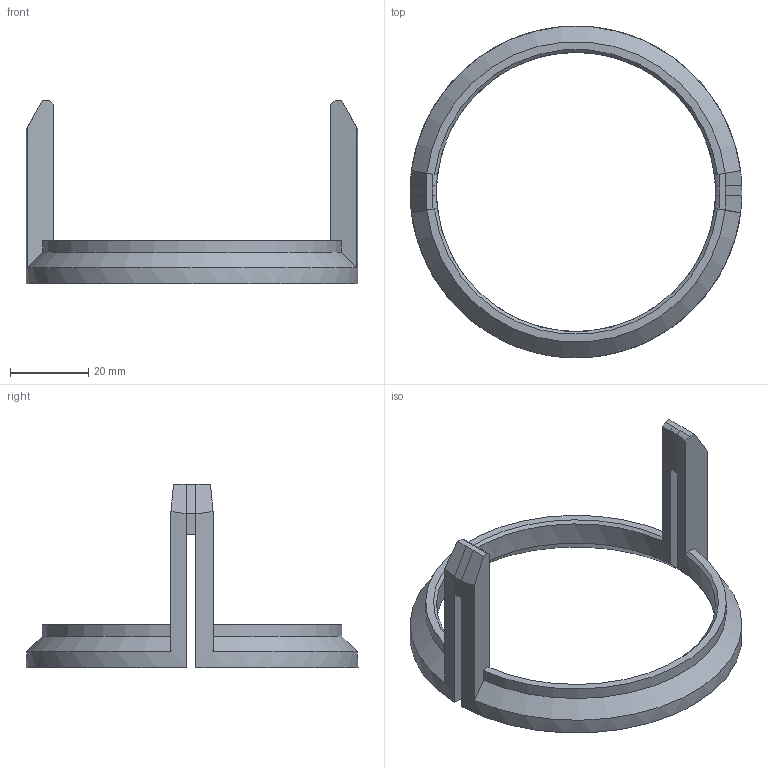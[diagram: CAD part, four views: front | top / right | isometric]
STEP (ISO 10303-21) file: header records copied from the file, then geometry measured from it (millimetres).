
FILE_DESCRIPTION(/* description */ (''),/* implementation_level */ '2;1');
FILE_NAME(/* name */ 'F:/F-Shared-Ryzen7 - PROD/F-OWL-PLANES/F-16 Falcon 64mm/STLs - REAL FOLDER/OWLplane OWL F-16 Falcon 64mm v1.2/OWL F-16 Falcon 64mm - SUPPORT ver 1.1/F-16 Falcon 64mm EDF BRACKETS/STEP/EDF-64 PowerFun - Bracket with Lip.step',/* time_stamp */ '2022-10-14T15:48:19+07:00',/* author */ (''),/* organization */ (''),/* preprocessor_version */ 'ST-DEVELOPER v19',/* originating_system */ 'Autodesk Translation Framework v11.7.0.108',/* authorisation */ '');
FILE_SCHEMA (('AUTOMOTIVE_DESIGN { 1 0 10303 214 3 1 1 }'));
Length unit declared in the file: millimetre
Products named in the file (2): EDF-64 PowerFun - Bracket with Lip; -0.25
Assembly tree (1 placements, depth 2):
  EDF-64 PowerFun - Bracket with Lip
    -0.25
Bounding box: 84.98 x 85 x 46.88 mm (x, y, z)
Volume: 14623.2 mm3; surface area: 10294.6 mm2
Topology: 1 solids, 1 shells, 41 faces, 115 edges, 74 vertices
Faces by surface type: plane 18, bspline 12, cone 6, cylinder 5
Full cylindrical faces by diameter (mm): 71.5 x1
Entity records: 1791 total; most frequent: CARTESIAN_POINT 786, ORIENTED_EDGE 230, DIRECTION 159, EDGE_CURVE 115, VERTEX_POINT 74, LINE 57, VECTOR 57, AXIS2_PLACEMENT_3D 51
